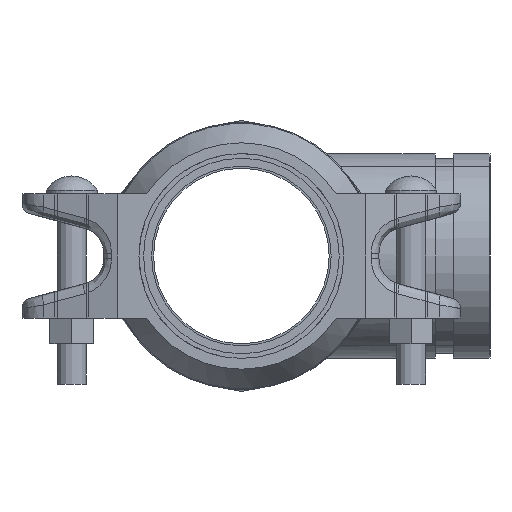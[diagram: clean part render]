
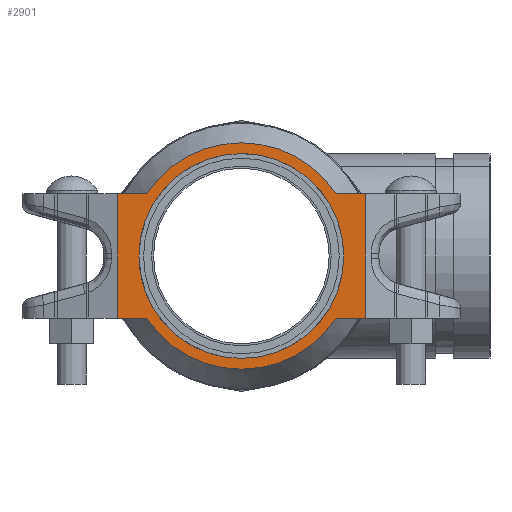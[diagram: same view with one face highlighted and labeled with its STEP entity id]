
A CAD part, left-side view. The second image highlights one B-rep face of the part: STEP entity #2901.
In plain terms, the highlighted planar face has unit normal (-1, 0, 0) as drawn and (0, 0, -1) by its records, which use the part's own axes.
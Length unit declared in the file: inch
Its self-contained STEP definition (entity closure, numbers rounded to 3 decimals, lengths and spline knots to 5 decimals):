
#158=FACE_BOUND('',#544,.T.);
#223=PLANE('',#3305);
#365=FACE_OUTER_BOUND('',#543,.T.);
#543=EDGE_LOOP('',(#2454,#2455,#2456,#2457,#2458,#2459,#2460,#2461));
#544=EDGE_LOOP('',(#2462,#2463));
#602=LINE('',#4685,#779);
#728=LINE('',#5397,#905);
#733=LINE('',#5441,#910);
#735=LINE('',#5449,#912);
#736=LINE('',#5512,#913);
#738=LINE('',#5521,#915);
#779=VECTOR('',#3621,0.3937);
#905=VECTOR('',#4049,0.3937);
#910=VECTOR('',#4062,0.3937);
#912=VECTOR('',#4066,0.3937);
#913=VECTOR('',#4069,0.3937);
#915=VECTOR('',#4075,0.3937);
#1039=CIRCLE('',#3299,1.75);
#1040=CIRCLE('',#3300,1.75);
#1043=CIRCLE('',#3306,1.935);
#1044=CIRCLE('',#3307,1.935);
#1156=VERTEX_POINT('',#4682);
#1157=VERTEX_POINT('',#4684);
#1295=VERTEX_POINT('',#5394);
#1296=VERTEX_POINT('',#5396);
#1303=VERTEX_POINT('',#5437);
#1305=VERTEX_POINT('',#5448);
#1313=VERTEX_POINT('',#5508);
#1315=VERTEX_POINT('',#5520);
#1319=VERTEX_POINT('',#5557);
#1320=VERTEX_POINT('',#5558);
#1458=EDGE_CURVE('',#1157,#1156,#602,.T.);
#1670=EDGE_CURVE('',#1296,#1295,#728,.T.);
#1681=EDGE_CURVE('',#1303,#1295,#733,.T.);
#1684=EDGE_CURVE('',#1157,#1305,#735,.T.);
#1694=EDGE_CURVE('',#1313,#1156,#736,.T.);
#1698=EDGE_CURVE('',#1296,#1315,#738,.T.);
#1705=EDGE_CURVE('',#1319,#1320,#1039,.T.);
#1707=EDGE_CURVE('',#1320,#1319,#1040,.T.);
#1710=EDGE_CURVE('',#1303,#1305,#1043,.T.);
#1711=EDGE_CURVE('',#1313,#1315,#1044,.T.);
#2454=ORIENTED_EDGE('',*,*,#1710,.T.);
#2455=ORIENTED_EDGE('',*,*,#1684,.F.);
#2456=ORIENTED_EDGE('',*,*,#1458,.T.);
#2457=ORIENTED_EDGE('',*,*,#1694,.F.);
#2458=ORIENTED_EDGE('',*,*,#1711,.T.);
#2459=ORIENTED_EDGE('',*,*,#1698,.F.);
#2460=ORIENTED_EDGE('',*,*,#1670,.T.);
#2461=ORIENTED_EDGE('',*,*,#1681,.F.);
#2462=ORIENTED_EDGE('',*,*,#1705,.F.);
#2463=ORIENTED_EDGE('',*,*,#1707,.F.);
#2901=ADVANCED_FACE('',(#365,#158),#223,.T.);
#3299=AXIS2_PLACEMENT_3D('',#5559,#4090,#4091);
#3300=AXIS2_PLACEMENT_3D('',#5561,#4093,#4094);
#3305=AXIS2_PLACEMENT_3D('',#5566,#4103,#4104);
#3306=AXIS2_PLACEMENT_3D('',#5567,#4105,#4106);
#3307=AXIS2_PLACEMENT_3D('',#5568,#4107,#4108);
#3621=DIRECTION('',(0.,-1.,0.));
#4049=DIRECTION('',(0.,1.,0.));
#4062=DIRECTION('',(-1.,0.,0.));
#4066=DIRECTION('',(-1.,0.,0.));
#4069=DIRECTION('',(1.,0.,0.));
#4075=DIRECTION('',(1.,0.,0.));
#4090=DIRECTION('center_axis',(0.,0.,-1.));
#4091=DIRECTION('ref_axis',(-1.,0.,0.));
#4093=DIRECTION('center_axis',(0.,0.,-1.));
#4094=DIRECTION('ref_axis',(-1.,0.,0.));
#4103=DIRECTION('center_axis',(0.,0.,-1.));
#4104=DIRECTION('ref_axis',(1.,0.,0.));
#4105=DIRECTION('center_axis',(0.,0.,-1.));
#4106=DIRECTION('ref_axis',(-1.,0.,0.));
#4107=DIRECTION('center_axis',(0.,0.,-1.));
#4108=DIRECTION('ref_axis',(-1.,0.,0.));
#4682=CARTESIAN_POINT('',(2.125,-1.06,-1.065));
#4684=CARTESIAN_POINT('',(2.125,1.06,-1.065));
#4685=CARTESIAN_POINT('',(2.125,0.,-1.065));
#5394=CARTESIAN_POINT('',(-2.125,1.06,-1.065));
#5396=CARTESIAN_POINT('',(-2.125,-1.06,-1.065));
#5397=CARTESIAN_POINT('',(-2.125,0.,-1.065));
#5437=CARTESIAN_POINT('',(-1.61883,1.06,-1.065));
#5441=CARTESIAN_POINT('',(2.125,1.06,-1.065));
#5448=CARTESIAN_POINT('',(1.61883,1.06,-1.065));
#5449=CARTESIAN_POINT('',(2.125,1.06,-1.065));
#5508=CARTESIAN_POINT('',(1.61883,-1.06,-1.065));
#5512=CARTESIAN_POINT('',(2.125,-1.06,-1.065));
#5520=CARTESIAN_POINT('',(-1.61883,-1.06,-1.065));
#5521=CARTESIAN_POINT('',(2.125,-1.06,-1.065));
#5557=CARTESIAN_POINT('',(-1.39244,1.06,-1.065));
#5558=CARTESIAN_POINT('',(0.,1.75,-1.065));
#5559=CARTESIAN_POINT('Origin',(0.,0.,-1.065));
#5561=CARTESIAN_POINT('Origin',(0.,0.,-1.065));
#5566=CARTESIAN_POINT('Origin',(0.,-1.75,-1.065));
#5567=CARTESIAN_POINT('Origin',(0.,0.,-1.065));
#5568=CARTESIAN_POINT('Origin',(0.,0.,-1.065));
